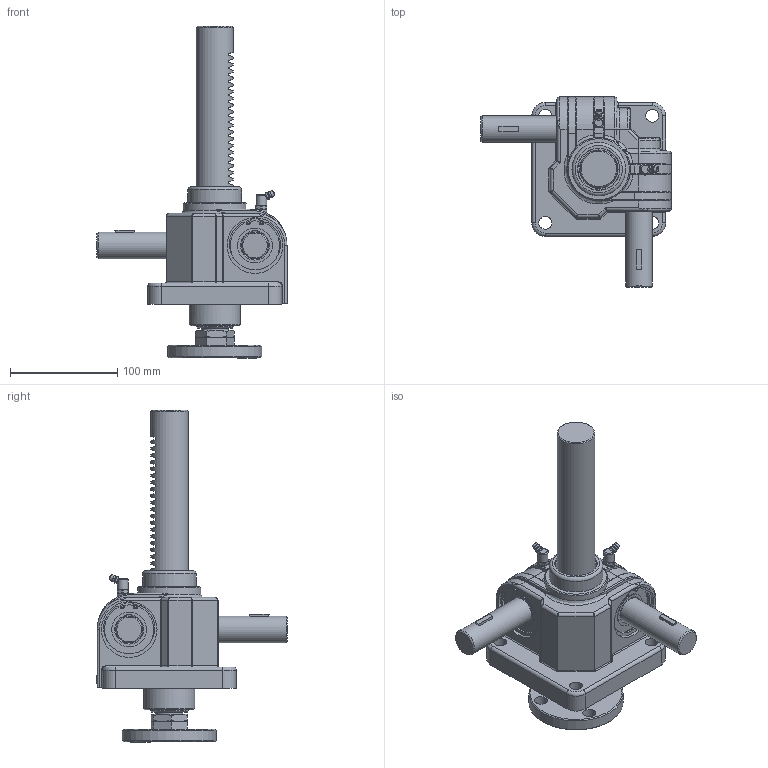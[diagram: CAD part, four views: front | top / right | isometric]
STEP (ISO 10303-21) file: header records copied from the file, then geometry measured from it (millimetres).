
FILE_DESCRIPTION(('STEP AP203'),'1');
FILE_NAME('SP1-1500FU-150ST.stp','2022-06-15T05:11:23',(' '),(' '),'Spatial InterOp 3D',' ',' ');
FILE_SCHEMA(('CONFIG_CONTROL_DESIGN'));
Length unit declared in the file: millimetre
Products named in the file (18): SP1-1500FU-150ST; Rack Gear(SP-1500F); Flange-Part; Nut; Joint; Flange; Body-Part; b6205zz; SnapRing-55Pie; Nipple; Key; Shaft(SP1-1500); Gear Box(NSP-1500); RJ05-4SCJ-610X600-100ST_CAP; LABEL-B.1; ___; 파트18; __ 
Assembly tree (22 placements, depth 5):
  SP1-1500FU-150ST
    Rack Gear(SP-1500F)
    Flange-Part
      Nut
      Joint
      Flange
    Body-Part
      b6205zz  x2
      SnapRing-55Pie  x2
      Nipple  x2
      Key  x2
      Shaft(SP1-1500)  x2
      Gear Box(NSP-1500)
    __ 
      ___
        RJ05-4SCJ-610X600-100ST_CAP
          LABEL-B.1
        파트18
Bounding box: 177.5 x 177.68 x 310 mm (x, y, z)
Volume: 901243.5 mm3; surface area: 237961.8 mm2
Topology: 23 solids, 23 shells, 2705 faces, 7461 edges, 4831 vertices
Faces by surface type: plane 1990, cylinder 434, torus 108, bspline 56, revolution 42, extrusion 38, sphere 22, cone 15
Full cylindrical faces by diameter (mm): 3.087 x4, 4.8 x2, 8 x2, 9.886 x2, 10 x2, 12 x8, 25 x8, 27 x1, 28 x2, 32.5 x4, 35 x1, 36 x1, 37 x1, 38 x1, 39 x3, 39.4 x1, 41 x2, 44 x1, 45 x1, 46.1 x4, 48 x1, 50 x3, 52 x6, 55 x2, 59 x1, 88 x1
Entity records: 89038 total; most frequent: CARTESIAN_POINT 23327, ORIENTED_EDGE 13976, DIRECTION 12277, EDGE_CURVE 6988, VECTOR 5658, LINE 5639, VERTEX_POINT 4596, AXIS2_PLACEMENT_3D 3299
